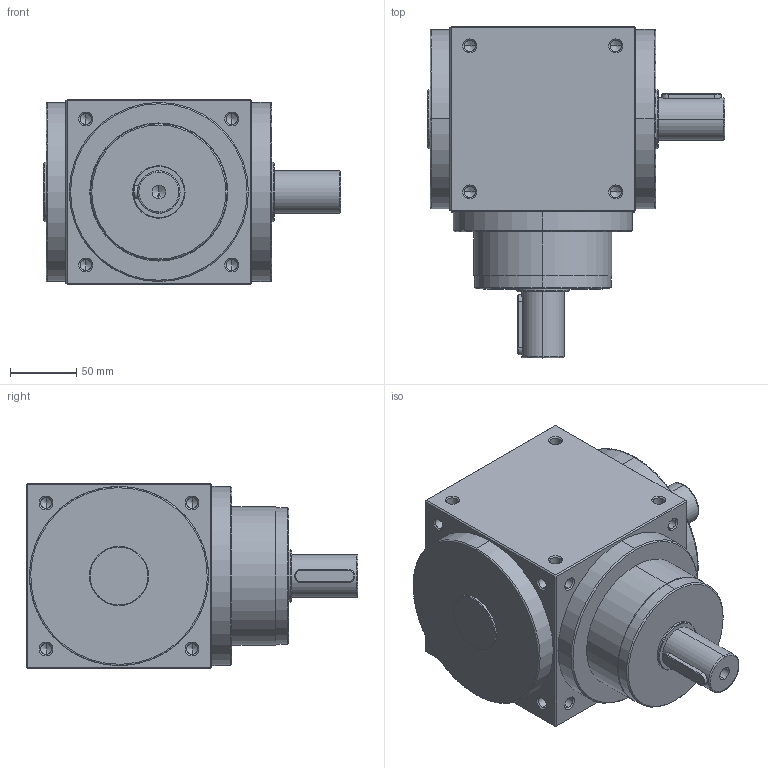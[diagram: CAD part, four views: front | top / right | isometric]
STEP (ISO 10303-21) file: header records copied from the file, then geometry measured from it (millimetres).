
FILE_DESCRIPTION (( 'STEP AP214' ), '1' );
FILE_NAME ('AT140-L-001.STEP', '2020-11-12T03:00:51', ( '微软用户' ), ( '微软中国' ), 'SwSTEP 2.0', 'SolidWorks 2014', '' );
FILE_SCHEMA (( 'AUTOMOTIVE_DESIGN' ));
Length unit declared in the file: millimetre
Products named in the file (2): AT140-L-001
Bounding box: 224 x 250 x 140 mm (x, y, z)
Volume: 3809430.6 mm3; surface area: 172822.7 mm2
Topology: 1 solids, 1 shells, 292 faces, 748 edges, 412 vertices
Faces by surface type: cylinder 124, cone 114, plane 46, bspline 8
Entity records: 11815 total; most frequent: CARTESIAN_POINT 2166, ORIENTED_EDGE 1392, DIRECTION 1314, EDGE_CURVE 696, AXIS2_PLACEMENT_3D 504, VERTEX_POINT 412, EDGE_LOOP 330, VECTOR 306
